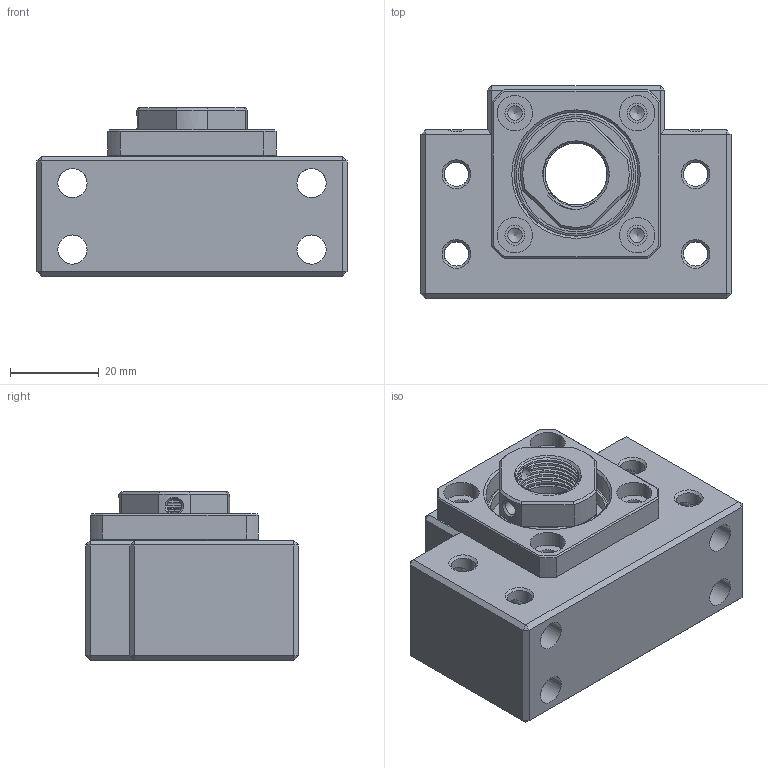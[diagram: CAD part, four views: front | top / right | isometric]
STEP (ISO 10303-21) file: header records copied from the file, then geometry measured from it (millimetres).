
FILE_DESCRIPTION(('STEP AP214'), '1');
FILE_NAME('BK15', '', ('UNSPECIFIED'), ('UNSPECIFIED'), 'ASCON STEP Converter 1.3', 'ASCON Math Kernel', '');
FILE_SCHEMA(('AUTOMOTIVE_DESIGN { 1 0 10303 214 3 1 1}'));
Length unit declared in the file: millimetre
Products named in the file (7): BK15套筒; BK系列密封圈_BK15密封圈; 7002_7002A; BK15蓋; BK15; M15鎖固螺帽_M15
Assembly tree (9 placements, depth 2):
  (unnamed)
    BK15套筒  x2
    BK系列密封圈_BK15密封圈  x2
    7002_7002A  x2
    BK15蓋
    BK15
    M15鎖固螺帽_M15
Bounding box: 70 x 48 x 38 mm (x, y, z)
Volume: 69750.5 mm3; surface area: 37274.8 mm2
Topology: 39 solids, 39 shells, 335 faces, 855 edges, 544 vertices
Faces by surface type: plane 104, cylinder 83, sphere 56, cone 47, torus 29, bspline 16
Full cylindrical faces by diameter (mm): 3.3 x6, 4.5 x4, 5.5 x12, 6.6 x4, 8 x4, 10.8 x4, 15 x4, 18.7 x2, 19.5 x3, 20 x4, 22 x2, 26 x2, 27 x3, 28 x4, 32 x5
Entity records: 24549 total; most frequent: CARTESIAN_POINT 16380, DIRECTION 1038, ORIENTED_EDGE 1020, EDGE_CURVE 510, AXIS2_PLACEMENT_3D 446, EDGE_LOOP 428, VERTEX_POINT 384, FACE_BOUND 302
